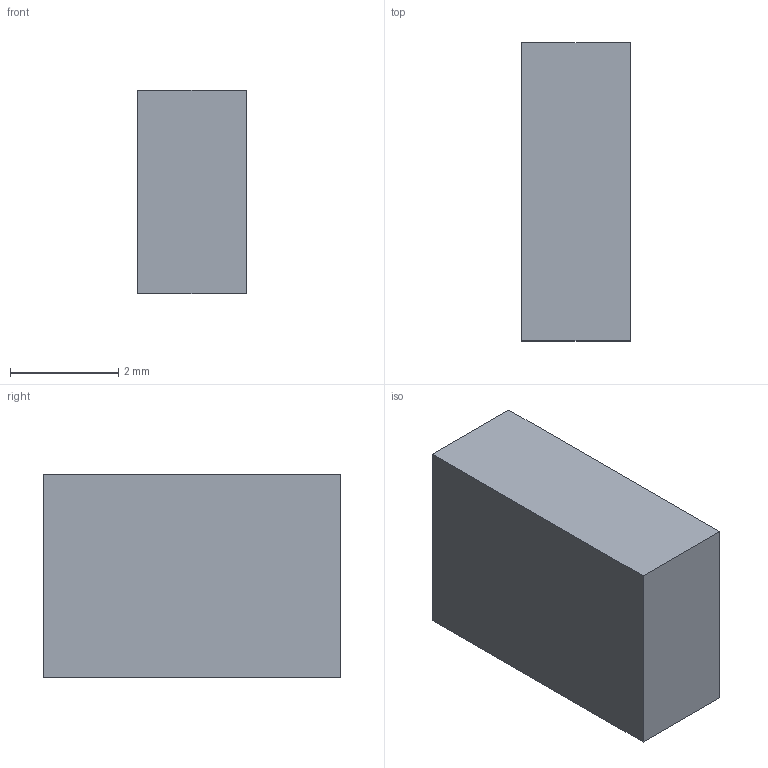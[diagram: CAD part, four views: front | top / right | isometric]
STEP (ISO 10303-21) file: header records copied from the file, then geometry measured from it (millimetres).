
FILE_DESCRIPTION(/* description */ ('STEP AP242 Edition 2','CAx-IF Rec.Pracs.---Representation and Presentation of Product Manufacturing Information (PMI)---4.0---2014-10-13','CAx-IF Rec.Pracs.---3D Tessellated Geometry---0.4---2014-09-14','2;1','CAx-IF Rec.Pracs.---User Defined Attributes---1.5---2016-08-15'),/* implementation_level */ '2;1');
FILE_NAME(/* name */ 'LCD_TFT_1.8_SPI_ST7735 - Part 5',/* time_stamp */ '2026-04-28T02:34:33Z',/* author */ (''),/* organization */ (''),/* preprocessor_version */ 'ST-DEVELOPER v20',/* originating_system */ 'ONSHAPE BY PTC INC, 1.214',/* authorisation */ ' ');
FILE_SCHEMA (('AP242_MANAGED_MODEL_BASED_3D_ENGINEERING_MIM_LF { 1 0 10303 442 3 1 4 }'));
Length unit declared in the file: metre
Products named in the file (1): Part 5
Bounding box: 2 x 5.5 x 3.76 mm (x, y, z)
Volume: 41.4 mm3; surface area: 78.4 mm2
Topology: 1 solids, 1 shells, 6 faces, 12 edges, 8 vertices
Faces by surface type: plane 6
Entity records: 178 total; most frequent: CARTESIAN_POINT 27, DIRECTION 26, ORIENTED_EDGE 24, EDGE_CURVE 12, LINE 12, VECTOR 12, VERTEX_POINT 8, AXIS2_PLACEMENT_3D 7
